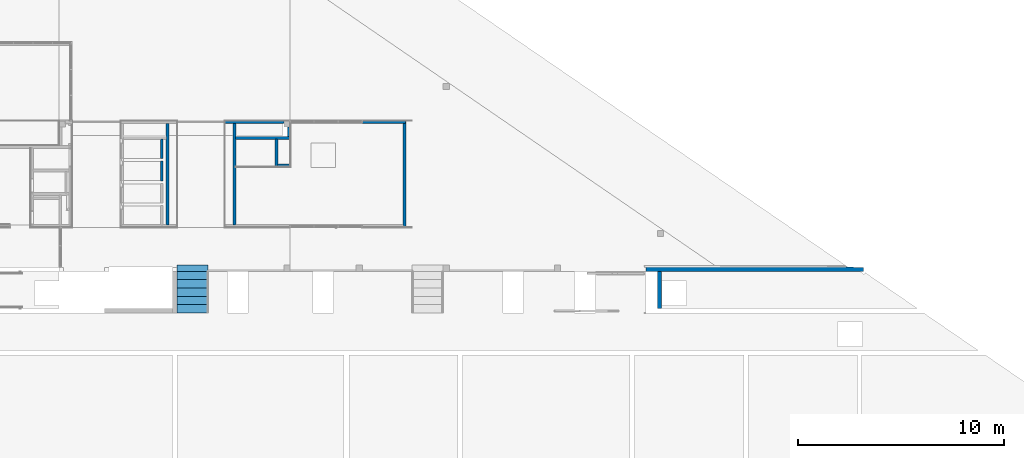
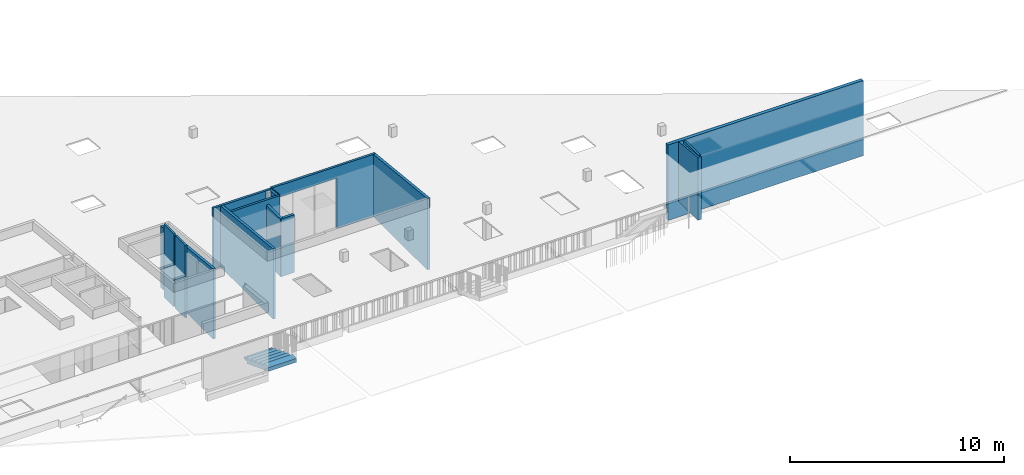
# One storey, part 28 of 43: 12 walls, 1 stair, 1 opening.
"""IFC2X3 building model written with IfcOpenShell, lengths in millimetres."""

from ifc_helpers import new_model, entity, si_unit, converted_unit, derived_unit, money_unit, direction, frame, origin_with_axes, place, context, subcontext, project, spatial, faceted_brep, material, material_list, type_object, element, save


model = new_model("IFC2X3")

# Units and contexts
model_context = context("Model", 3, precision=0.01, world=origin_with_axes(), true_north=direction((0.0, 1.0)))
body_context = subcontext(model_context, "Body", "Model", "MODEL_VIEW")
ifc_project = project(units=[si_unit("LENGTHUNIT", "METRE", prefix="MILLI"), si_unit("AREAUNIT", "SQUARE_METRE"), si_unit("VOLUMEUNIT", "CUBIC_METRE"), converted_unit("PLANEANGLEUNIT", "DEGREE", entity("IfcPlaneAngleMeasure", 0.0174532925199), si_unit("PLANEANGLEUNIT", "RADIAN"), dimensions=[0, 0, 0, 0, 0, 0, 0]), si_unit("SOLIDANGLEUNIT", "STERADIAN"), money_unit("EUR"), converted_unit("TIMEUNIT", "Year", entity("IfcTimeMeasure", 31556926.0), si_unit("TIMEUNIT", "SECOND"), dimensions=[0, 0, 1, 0, 0, 0, 0]), si_unit("MASSUNIT", "GRAM", prefix="KILO"), si_unit("THERMODYNAMICTEMPERATUREUNIT", "DEGREE_CELSIUS"), si_unit("LUMINOUSINTENSITYUNIT", "LUMEN"), si_unit("ENERGYUNIT", "JOULE", prefix="MEGA"), derived_unit("THERMALCONDUCTANCEUNIT", [(si_unit("POWERUNIT", "WATT"), 1), (si_unit("LENGTHUNIT", "METRE"), -1), (si_unit("THERMODYNAMICTEMPERATUREUNIT", "KELVIN"), -1)]), derived_unit("SPECIFICHEATCAPACITYUNIT", [(si_unit("ENERGYUNIT", "JOULE"), 1), (si_unit("MASSUNIT", "GRAM", prefix="KILO"), -1), (si_unit("THERMODYNAMICTEMPERATUREUNIT", "KELVIN"), -1)]), derived_unit("MASSDENSITYUNIT", [(si_unit("MASSUNIT", "GRAM", prefix="KILO"), 1), (si_unit("VOLUMEUNIT", "CUBIC_METRE"), -1)])], contexts=[model_context])

# Site, building, storey
site_placement = place(None, origin_with_axes())
site = spatial("IfcSite", under=ifc_project, at=site_placement, Name="L.Koidula tn 11b", CompositionType="ELEMENT")
building_placement = place(site_placement, origin_with_axes())
building = spatial("IfcBuilding", under=site, at=building_placement, Name="Rakvere Riigigümnaasium", CompositionType="ELEMENT")
storey_placement = place(building_placement, frame((0.0, 0.0, 6665.0), z_axis=(0.0, 0.0, 1.0), x_axis=(1.0, 0.0, 0.0)))
storey = spatial("IfcBuildingStorey", under=building, at=storey_placement, Name="3.korrus +6,66", CompositionType="ELEMENT", Elevation=6665.0)

# Walls
ifc_material_1 = material(Name="Betoon element / plaat")
wall_type_1 = type_object("IfcWallType", Name="SS-01 200", PredefinedType="NOTDEFINED")
wall_1_placement = place(storey_placement, frame((75989.9798877, 15100.4785302, 900.0), z_axis=(0.0, 0.0, 1.0), x_axis=(0.0, 1.0, 0.0)))
element("IfcWall", 1, at=wall_1_placement, inside=storey, type_object=wall_type_1, material=ifc_material_1, Name="Sisesein", context=body_context, shape_type="Brep", body=[
    faceted_brep([(2009.97698206, 0.0, 3400.82462893), (2009.97698206, -200.0, 3400.82159302), (2009.97698206, -200.0, 0.0), (2009.97698206, 0.0, 0.0), (1699.55610898, -200.0, 3433.44814115), (200.0, 0.0, 3591.06087349), (200.0, -200.0, 3591.05783758), (307.225440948, -200.0, 3579.78798973), (307.23988879, -99.9622062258, 3579.78798973), (1699.57052778, -100.16329195, 3433.44814115), (200.0, -200.0, 0.0), (1699.55610898, -200.0, 3612.09022017), (310.620542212, -200.0, 3612.09022017), (200.0, 0.0, 0.0), (310.634989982, -99.9626965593, 3612.09022017), (1699.57052778, -100.16329195, 3612.09022017)], [[[0, 1, 2, 3]], [[4, 1, 0, 5, 6, 7, 8, 9]], [[7, 6, 10, 2, 1, 4, 11, 12]], [[13, 3, 2, 10]], [[5, 0, 3, 13]], [[6, 5, 13, 10]], [[7, 12, 14, 8]], [[14, 15, 9, 8]], [[15, 11, 4, 9]], [[14, 12, 11, 15]]]),
])
ifc_material_2 = material(Name="siseviimistlus-seinad")
ifc_material_list_1 = material_list([ifc_material_2, ifc_material_1])
wall_type_2 = type_object("IfcWallType", Name="SS-01-1 210", PredefinedType="NOTDEFINED")
wall_2_placement = place(storey_placement, frame((75429.9821418, 17110.4555123, 0.0), z_axis=(0.0, 0.0, 1.0), x_axis=(1.0, 0.0, 0.0)))
element("IfcWall", 2, at=wall_2_placement, inside=storey, type_object=wall_type_2, material=ifc_material_list_1, Name="Sisesein", context=body_context, shape_type="Brep", body=[
    faceted_brep([(9.40698896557e-06, 210.0, 4278.76124027), (10537.1078258, 210.0, 4278.60129165), (10537.1078258, 210.0, 4274.21275802), (10054.1332579, 210.0, 4274.21275802), (10054.1332579, 210.0, 0.0), (0.0, 210.0, 0.0), (10537.1078258, 200.0, 4279.65233399), (9.40930533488e-06, 200.0, 4279.81228261), (10537.1078258, 200.0, 4274.21275802), (10068.7131302, 200.0, 4274.21275802), (10068.7131302, 200.0, 0.0), (0.0, 200.0, 0.0)], [[[0, 1, 2, 3, 4, 5]], [[6, 1, 0, 7]], [[1, 6, 8, 2]], [[9, 3, 2, 8]], [[3, 9, 10, 4]], [[5, 4, 10, 11]], [[7, 0, 5, 11]], [[6, 7, 11, 10, 9, 8]]]),
    faceted_brep([(9.40930533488e-06, 200.0, 4279.81228261), (10537.1078258, 200.0, 4279.65233399), (10537.1078258, 200.0, 0.0), (0.0, 200.0, 0.0), (10537.1078258, 0.0, 4300.67318083), (9.45551903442e-06, 0.0, 4300.83312945), (10537.1078258, 0.0, 0.0), (0.0, 0.0, 0.0)], [[[0, 1, 2, 3]], [[4, 1, 0, 5]], [[1, 4, 6, 2]], [[2, 6, 7, 3]], [[5, 0, 3, 7]], [[4, 5, 7, 6]]]),
])

# Wall, opening
ifc_material_3 = material(Name="Krohv")
ifc_material_4 = material(Name="Silikaat plokk")
ifc_material_list_2 = material_list([ifc_material_3, ifc_material_4, ifc_material_3])
wall_type_3 = type_object("IfcWallType", Name="SS-05 140", PredefinedType="NOTDEFINED")
wall_3_placement = place(storey_placement, frame((55029.9980025, 24400.4555472, 0.0), z_axis=(0.0, 0.0, 1.0), x_axis=(1.0, 0.0, 0.0)))
wall_3 = element("IfcWall", 3, at=wall_3_placement, inside=storey, type_object=wall_type_3, material=ifc_material_list_2, Name="Sisesein", context=body_context, shape_type="Brep", body=[
    faceted_brep([(3150.02548497, 10.0000000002, 3533.83406305), (8770.0, 10.0, 3533.74875433), (8770.0, 10.0, 0.0), (6660.02292846, 10.0, 0.0), (6660.02292846, 10.0, 2880.0), (3150.03673722, 10.0, 2880.0), (3150.03673722, 10.0, 0.0), (0.0, 10.0, 0.0), (0.0, 10.0, 3478.57892397), (3150.02948577, 10.0, 3478.53110792), (8770.0, 0.0, 3534.79979668), (3150.02548497, 1.84741111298e-10, 3534.8851054), (8770.0, 0.0, 0.0), (6660.02292846, 0.0, 0.0), (6660.02292846, 0.0, 2880.0), (3150.03673722, 0.0, 2880.0), (3150.03673722, 0.0, 0.0), (0.0, 0.0, 0.0), (0.0, 0.0, 3479.62996631), (3150.02948577, 0.0, 3479.58215026)], [[[0, 1, 2, 3, 4, 5, 6, 7, 8, 9]], [[10, 1, 0, 11]], [[1, 10, 12, 2]], [[2, 12, 13, 3]], [[13, 14, 4, 3]], [[14, 15, 5, 4]], [[15, 16, 6, 5]], [[17, 7, 6, 16]], [[17, 18, 8, 7]], [[19, 9, 8, 18]], [[11, 0, 9, 19]], [[10, 11, 19, 18, 17, 16, 15, 14, 13, 12]]]),
    faceted_brep([(4165.20411758, 5.92947912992e-09, 3534.86969543), (8760.0, 0.0, 3534.79994847), (8760.0, 0.0, 0.0), (6660.02292846, 0.0, 0.0), (6660.02292846, 0.0, 2880.0), (8760.0, -120.0, 3547.41245657), (3150.02548497, -0.0358767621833, 3534.88887619), (3150.02548497, -120.0, 3547.4976135), (8760.0, -120.0, 0.0), (6660.02292846, -120.0, 0.0), (6660.02292846, -120.0, 2880.0), (3150.02948577, -0.0433228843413, 3479.58670368), (3150.02948577, -120.0, 3492.19465836), (0.0, -120.0, 3492.24247441), (0.0, -120.0, 0.0), (2850.03680755, -120.0, 0.0), (2850.03680755, -120.0, 3479.58670368), (3150.03680755, -120.0, 3479.58670368), (3150.03673722, -120.0, 2880.0), (3150.03673722, 0.0, 2880.0), (0.0, 0.0, 3479.62996631), (2850.03680755, 3.50475204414e-08, 3479.58670401), (0.0, 0.0, 0.0), (2850.03680755, 0.0, 0.0)], [[[0, 1, 2, 3, 4]], [[5, 1, 0, 6, 7]], [[1, 5, 8, 2]], [[9, 3, 2, 8]], [[4, 3, 9, 10]], [[6, 0, 4, 11]], [[7, 6, 11, 12]], [[5, 7, 12, 13, 14, 15, 16, 17, 18, 10, 9, 8]], [[19, 4, 10, 18]], [[19, 11, 4]], [[20, 13, 12, 11, 21]], [[13, 20, 22, 14]], [[15, 14, 22, 23]], [[21, 16, 15, 23]], [[11, 17, 16, 21]], [[19, 18, 17, 11]], [[20, 21, 23, 22]]]),
    faceted_brep([(3150.02548497, -119.999999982, 3547.49761349), (8640.0, -120.0, 3547.41427812), (8640.0, -120.0, 0.0), (6660.02292846, -120.0, 0.0), (6660.02292846, -120.0, 2880.0), (3150.03673722, -120.0, 2880.0), (8640.0, -130.0, 3548.46532046), (3150.02548497, -130.000000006, 3548.54865584), (8640.0, -130.0, 0.0), (6660.02292846, -130.0, 0.0), (6660.02292846, -130.0, 2880.0), (3150.03673722, -130.0, 2880.0)], [[[0, 1, 2, 3, 4, 5]], [[6, 1, 0, 7]], [[1, 6, 8, 2]], [[8, 9, 3, 2]], [[10, 4, 3, 9]], [[11, 5, 4, 10]], [[7, 0, 5, 11]], [[6, 7, 11, 10, 9, 8]]]),
    faceted_brep([(2850.03680755, -120.0, 0.0), (520.046794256, -120.0, 0.0), (520.046794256, -120.0, 3492.23458033), (3030.03680755, -120.0, 3492.19647979), (3030.03680755, -120.0, 3479.58670368), (2850.03680755, -120.0, 3479.58670368), (2850.03680755, -130.0, 0.0), (520.046794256, -130.0, 0.0), (520.046794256, -130.0, 3493.28562267), (3030.03680755, -130.0, 3493.24752214), (3030.03680755, -130.0, 3479.58670368), (2850.03680755, -130.0, 3479.58670368)], [[[0, 1, 2, 3, 4, 5]], [[6, 7, 1, 0]], [[1, 7, 8, 2]], [[2, 8, 9, 3]], [[10, 4, 3, 9]], [[4, 10, 11, 5]], [[5, 11, 6, 0]], [[11, 10, 9, 8, 7, 6]]]),
    faceted_brep([(400.046794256, -120.0, 0.0), (106.5, -120.0, 0.0), (106.5, -120.0, 3492.24085779), (400.046794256, -120.0, 3492.23640188), (106.5, -130.0, 0.0), (400.046794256, -130.0, 0.0), (106.5, -130.0, 3493.29190013), (400.046794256, -130.0, 3493.28744422)], [[[0, 1, 2, 3]], [[4, 1, 0, 5]], [[1, 4, 6, 2]], [[2, 6, 7, 3]], [[5, 0, 3, 7]], [[4, 5, 7, 6]]]),
])
opening_placement = place(wall_3_placement, frame((4905.02983284, 0.0, 0.0), z_axis=(0.0, 0.0, 1.0), x_axis=(1.0, 0.0, 0.0)))
element("IfcOpeningElement", 4, at=opening_placement, cuts=wall_3, Name="ava", context=body_context, shape_type="Brep", body=[
    faceted_brep([(-1754.99309562, -140.0, 0.0), (-1754.99309562, -140.0, 2880.0), (-1754.99309562, 280.0, 2880.0), (-1754.99309562, 280.0, 0.0), (1754.99309562, -140.0, 0.0), (1754.99309562, -140.0, 2880.0), (1754.99309562, 280.0, 2880.0), (1754.99309562, 280.0, 0.0)], [[[0, 1, 2, 3]], [[0, 4, 5, 1]], [[1, 5, 6, 2]], [[3, 2, 6, 7]], [[4, 0, 3, 7]], [[5, 4, 7, 6]]]),
])

# Walls
wall_4_placement = place(storey_placement, frame((55550.0447968, 19240.4397072, 0.0), z_axis=(0.0, 0.0, 1.0), x_axis=(0.0, 1.0, 0.0)))
element("IfcWall", 5, at=wall_4_placement, inside=storey, type_object=wall_type_3, material=ifc_material_list_2, Name="Sisesein", context=body_context, shape_type="Brep", body=[
    faceted_brep([(5030.01583998, 130.0, 0.0), (5030.01583998, 130.0, 3493.28759601), (5030.01583998, 120.0, 3493.28744422), (5030.01583998, 120.0, 0.0), (130.0, 130.0, 0.0), (130.0, 130.0, 4008.30000829), (130.0, 120.0, 4008.2998565), (130.0, 120.0, 0.0)], [[[0, 1, 2, 3]], [[4, 5, 1, 0]], [[5, 6, 2, 1]], [[3, 2, 6, 7]], [[4, 0, 3, 7]], [[7, 6, 5, 4]]]),
    faceted_brep([(5040.01583998, 120.0, 0.0), (5040.01583998, 120.0, 3492.23640188), (5040.01583998, 0.0, 3492.23458033), (5040.01583998, 0.0, 0.0), (120.0, 120.0, 0.0), (120.0, 120.0, 4009.35089884), (120.0, 0.0, 4009.34907729), (120.0, 0.0, 0.0)], [[[0, 1, 2, 3]], [[4, 5, 1, 0]], [[5, 6, 2, 1]], [[3, 2, 6, 7]], [[4, 0, 3, 7]], [[7, 6, 5, 4]]]),
    faceted_brep([(4280.21298143, 0.0, 0.0), (4280.21298143, 0.0, 3572.0930779), (4280.21298143, -10.0, 3572.0929261), (4280.21298143, -10.0, 0.0), (130.0, 0.0, 0.0), (130.0, 0.0, 4008.29803495), (130.0, -10.0, 4008.29788315), (130.0, -10.0, 0.0)], [[[0, 1, 2, 3]], [[4, 5, 1, 0]], [[5, 6, 2, 1]], [[3, 2, 6, 7]], [[4, 0, 3, 7]], [[7, 6, 5, 4]]]),
    faceted_brep([(5030.01583998, 0.0, 0.0), (5030.01583998, 0.0, 3493.28562267), (5030.01583998, -10.0, 3493.28547087), (5030.01583998, -10.0, 0.0), (4400.21298143, 0.0, 0.0), (4400.21298143, 0.0, 3559.4805698), (4400.21298143, -10.0, 3559.480418), (4400.21298143, -10.0, 0.0)], [[[0, 1, 2, 3]], [[4, 5, 1, 0]], [[5, 6, 2, 1]], [[3, 2, 6, 7]], [[4, 0, 3, 7]], [[7, 6, 5, 4]]]),
])
wall_5_placement = place(storey_placement, frame((52309.9999937, 19360.4397072, 0.0), z_axis=(0.0, 0.0, 1.0), x_axis=(0.0, 1.0, 0.0)))
element("IfcWall", 6, at=wall_5_placement, inside=storey, type_object=wall_type_3, material=ifc_material_list_2, Name="Sisesein", context=body_context, shape_type="Brep", body=[
    faceted_brep([(4145.01298143, 130.0, 0.0), (4145.01298143, 130.0, 3573.74181804), (4145.01298143, 120.0, 3573.74166624), (4145.01298143, 120.0, 0.0), (15.0, 130.0, 0.0), (15.0, 130.0, 4007.82366956), (15.0, 120.0, 4007.82351777), (15.0, 120.0, 0.0)], [[[0, 1, 2, 3]], [[4, 5, 1, 0]], [[5, 6, 2, 1]], [[3, 2, 6, 7]], [[4, 0, 3, 7]], [[7, 6, 5, 4]]]),
    faceted_brep([(4910.01583998, 130.0, 0.0), (4910.01583998, 130.0, 3493.33677845), (4910.01583998, 120.0, 3493.33662666), (4910.01583998, 120.0, 0.0), (4280.01298143, 130.0, 0.0), (4280.01298143, 130.0, 3559.55274643), (4280.01298143, 120.0, 3559.55259463), (4280.01298143, 120.0, 0.0)], [[[0, 1, 2, 3]], [[4, 5, 1, 0]], [[5, 6, 2, 1]], [[3, 2, 6, 7]], [[4, 0, 3, 7]], [[7, 6, 5, 4]]]),
    faceted_brep([(4920.01583998, 120.0, 0.0), (4920.01583998, 120.0, 3492.28558432), (4920.01583998, 0.0, 3492.28376277), (4920.01583998, 0.0, 0.0), (0.0, 120.0, 0.0), (0.0, 120.0, 4009.40008128), (0.0, 0.0, 4009.39825973), (0.0, 0.0, 0.0)], [[[0, 1, 2, 3]], [[4, 5, 1, 0]], [[5, 6, 2, 1]], [[3, 2, 6, 7]], [[4, 0, 3, 7]], [[7, 6, 5, 4]]]),
    faceted_brep([(4910.01583998, 0.0, 0.0), (4910.01583998, 0.0, 3493.33480511), (4910.01583998, -10.0, 3493.33465332), (4910.01583998, -10.0, 0.0), (15.0, 0.0, 0.0), (15.0, 0.0, 4007.82169622), (15.0, -10.0, 4007.82154443), (15.0, -10.0, 0.0)], [[[0, 1, 2, 3]], [[4, 5, 1, 0]], [[5, 6, 2, 1]], [[3, 2, 6, 7]], [[4, 0, 3, 7]], [[7, 6, 5, 4]]]),
])
wall_6_placement = place(storey_placement, frame((58180.0348101, 23640.6526887, 0.0), z_axis=(0.0, 0.0, 1.0), x_axis=(-1.0, 0.0, 0.0)))
element("IfcWall", 7, at=wall_6_placement, inside=storey, type_object=wall_type_3, material=ifc_material_list_2, Name="Sisesein", context=body_context, shape_type="Brep", body=[
    faceted_brep([(0.0113225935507, 120.000004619, 3627.35611155), (-10.0, 120.000003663, 3627.35595948), (-10.0, 120.0, 0.0), (600.0, 120.0, 0.0), (600.0, 120.000004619, 3300.0), (720.0, 120.000004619, 3300.0), (720.0, 120.0, 0.0), (2619.99001329, 120.0, 0.0), (2619.99001329, 120.000003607, 3572.09292648), (0.0073217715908, 120.000004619, 3572.05315641), (-10.0, 130.000014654, 3628.40700298), (0.0113225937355, 130.000018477, 3628.40715535), (-10.0, 130.0, 0.0), (600.0, 130.0, 0.0), (600.0, 130.000018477, 3300.0), (720.0, 130.000018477, 3300.0), (720.0, 130.0, 0.0), (2619.99001329, 130.0, 0.0), (2619.99001329, 130.000014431, 3573.14396996), (0.00732177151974, 130.000018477, 3573.10420021)], [[[0, 1, 2, 3, 4, 5, 6, 7, 8, 9]], [[10, 1, 0, 11]], [[1, 10, 12, 2]], [[2, 12, 13, 3]], [[13, 14, 4, 3]], [[14, 15, 5, 4]], [[15, 16, 6, 5]], [[17, 7, 6, 16]], [[17, 18, 8, 7]], [[19, 9, 8, 18]], [[11, 0, 9, 19]], [[10, 11, 19, 18, 17, 16, 15, 14, 13, 12]]]),
    faceted_brep([(2629.99001329, 0.0, 0.0), (2629.99001329, 6.55952447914e-06, 3559.48057048), (0.00732177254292, 6.55979093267e-06, 3559.44064851), (0.0, 0.0, 0.0), (2629.99001329, 120.0, 0.0), (2629.99001329, 120.000002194, 3572.09307813), (0.0073217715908, 120.000002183, 3572.05315616), (0.0, 120.0, 0.0)], [[[0, 1, 2, 3]], [[4, 5, 1, 0]], [[5, 6, 2, 1]], [[3, 2, 6, 7]], [[4, 0, 3, 7]], [[7, 6, 5, 4]]]),
    faceted_brep([(2619.99001329, -10.0, 0.0), (2619.99001329, -10.0, 3558.42937566), (120.0, -10.0, 3558.39142692), (120.0, -10.0, 0.0), (2619.99001329, 0.0, 0.0), (2619.99001329, 1.07819886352e-05, 3559.48041913), (120.0, 1.07818749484e-05, 3559.44247039), (120.0, 0.0, 0.0)], [[[0, 1, 2, 3]], [[4, 5, 1, 0]], [[5, 6, 2, 1]], [[3, 2, 6, 7]], [[4, 0, 3, 7]], [[7, 6, 5, 4]]]),
])
wall_7_placement = place(storey_placement, frame((57580.0348101, 22180.6526887, 0.0), z_axis=(0.0, 0.0, 1.0), x_axis=(0.0, 1.0, 0.0)))
element("IfcWall", 8, at=wall_7_placement, inside=storey, type_object=wall_type_3, material=ifc_material_list_2, Name="Sisesein", context=body_context, shape_type="Brep", body=[
    faceted_brep([(-10.0, 120.0, 3300.0), (1330.0, 120.0, 3300.0), (1330.0, 130.0, 3300.0), (-10.0, 130.0, 3300.0), (-10.0, 120.0, 0.0), (1330.0, 120.0, 0.0), (1330.0, 130.0, 0.0), (-10.0, 130.0, 0.0)], [[[0, 1, 2, 3]], [[4, 5, 1, 0]], [[6, 2, 1, 5]], [[3, 2, 6, 7]], [[7, 4, 0, 3]], [[7, 6, 5, 4]]]),
    faceted_brep([(0.0, 0.0, 3300.0), (1340.0, 0.0, 3300.0), (1340.0, 120.0, 3300.0), (0.0, 120.0, 3300.0), (0.0, 0.0, 0.0), (1340.0, 0.0, 0.0), (1340.0, 120.0, 0.0), (0.0, 120.0, 0.0)], [[[0, 1, 2, 3]], [[4, 5, 1, 0]], [[6, 2, 1, 5]], [[3, 2, 6, 7]], [[7, 4, 0, 3]], [[7, 6, 5, 4]]]),
    faceted_brep([(120.0, -10.0, 3300.0), (1330.0, -10.0, 3300.0), (1330.0, 0.0, 3300.0), (120.0, 0.0, 3300.0), (120.0, -10.0, 0.0), (1330.0, -10.0, 0.0), (1330.0, 0.0, 0.0), (120.0, 0.0, 0.0)], [[[0, 1, 2, 3]], [[4, 5, 1, 0]], [[6, 2, 1, 5]], [[3, 2, 6, 7]], [[7, 4, 0, 3]], [[7, 6, 5, 4]]]),
])
wall_8_placement = place(storey_placement, frame((63789.9980025, 24400.4555472, 0.0), z_axis=(0.0, 0.0, 1.0), x_axis=(0.0, -1.0, 0.0)))
element("IfcWall", 9, at=wall_8_placement, inside=storey, type_object=wall_type_3, material=ifc_material_list_2, Name="Sisesein", context=body_context, shape_type="Brep", body=[
    faceted_brep([(0.0, 0.0, 3534.79994847), (0.0, 10.0, 3534.79979668), (0.0, 10.0, 0.0), (0.0, 0.0, 0.0), (5170.01583998, 10.0, 4078.19035218), (5170.01583998, 0.0, 4078.19050398), (5170.01583998, 10.0, 0.0), (5170.01583998, 0.0, 0.0)], [[[0, 1, 2, 3]], [[4, 1, 0, 5]], [[1, 4, 6, 2]], [[6, 7, 3, 2]], [[5, 0, 3, 7]], [[4, 5, 7, 6]]]),
    faceted_brep([(120.0, -120.0, 3547.41427812), (120.0, 0.0, 3547.41245657), (120.0, 0.0, 0.0), (120.0, -120.0, 0.0), (5160.01583998, 0.0, 4077.13946164), (5160.01583998, -120.0, 4077.14128318), (5160.01583998, 0.0, 0.0), (5160.01583998, -120.0, 0.0)], [[[0, 1, 2, 3]], [[4, 1, 0, 5]], [[1, 4, 6, 2]], [[6, 7, 3, 2]], [[5, 0, 3, 7]], [[4, 5, 7, 6]]]),
    faceted_brep([(130.0, -130.0, 3548.46547226), (130.0, -120.0, 3548.46532046), (130.0, -120.0, 0.0), (130.0, -130.0, 0.0), (5040.01583998, -120.0, 4064.52877508), (5040.01583998, -130.0, 4064.52892688), (5040.01583998, -120.0, 0.0), (5040.01583998, -130.0, 0.0)], [[[0, 1, 2, 3]], [[4, 1, 0, 5]], [[1, 4, 6, 2]], [[6, 7, 3, 2]], [[5, 0, 3, 7]], [[4, 5, 7, 6]]]),
])
wall_9_placement = place(storey_placement, frame((58180.0348101, 23640.6526887, 0.0), z_axis=(0.0, 0.0, 1.0), x_axis=(0.0, 1.0, 0.0)))
element("IfcWall", 10, at=wall_9_placement, inside=storey, type_object=wall_type_3, material=ifc_material_list_2, Name="Sisesein", context=body_context, shape_type="Brep", body=[
    faceted_brep([(629.802858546, 130.0, 3479.58670368), (629.802858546, 130.0, 3493.24767393), (629.802858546, 120.0, 3493.24752214), (629.802858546, 120.0, 3479.58670368), (10.0, 130.0, 0.0), (10.0, 130.0, 3558.39157871), (459.802858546, 130.0, 3479.58670368), (459.802858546, 130.0, 0.0), (10.0, 120.0, 3558.39142692), (10.0, 120.0, 0.0), (459.802858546, 120.0, 0.0), (459.802858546, 120.0, 3479.58670368)], [[[0, 1, 2, 3]], [[4, 5, 1, 0, 6, 7]], [[5, 8, 2, 1]], [[3, 2, 8, 9, 10, 11]], [[11, 6, 0, 3]], [[9, 8, 5, 4]], [[7, 6, 11, 10]], [[9, 4, 7, 10]]]),
    faceted_brep([(639.802858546, 120.0, 3479.58670368), (639.802858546, 120.0, 3492.19647979), (639.802858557, 0.0073217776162, 3492.19465836), (639.802858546, 0.0, 3479.58670368), (0.0, 120.0, 0.0), (0.0, 120.0, 3559.44246926), (459.802858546, 120.0, 3479.58670368), (459.802858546, 120.0, 0.0), (-3.37507799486e-10, 0.00732177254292, 3559.44064783), (0.0, 0.0, 0.0), (459.802858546, 0.0, 0.0), (459.802858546, 0.0, 3479.58670368)], [[[0, 1, 2, 3]], [[4, 5, 1, 0, 6, 7]], [[5, 8, 2, 1]], [[3, 2, 8, 9, 10, 11]], [[3, 11, 6, 0]], [[9, 8, 5, 4]], [[10, 7, 6, 11]], [[10, 9, 4, 7]]]),
    faceted_brep([(629.802858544, 0.0113225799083, 3548.54865584), (629.802858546, -10.0, 3548.54850387), (629.802858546, -10.0, 0.0), (629.802858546, 0.0, 0.0), (-120.0, -10.0, 3627.3559591), (-119.999999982, 0.0113225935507, 3627.35611106), (-120.0, -10.0, 0.0), (-120.0, 0.0, 0.0)], [[[0, 1, 2, 3]], [[4, 1, 0, 5]], [[1, 4, 6, 2]], [[6, 7, 3, 2]], [[5, 0, 3, 7]], [[4, 5, 7, 6]]]),
])
wall_10_placement = place(storey_placement, frame((58190.0348101, 22180.6526887, 0.0), z_axis=(0.0, 0.0, 1.0), x_axis=(-1.0, 0.0, 0.0)))
element("IfcWall", 11, at=wall_10_placement, inside=storey, type_object=wall_type_3, material=ifc_material_list_2, Name="Sisesein", context=body_context, shape_type="Brep", body=[
    faceted_brep([(0.0, 10.0, 0.0), (730.0, 10.0, 0.0), (730.0, 0.0, 0.0), (0.0, 0.0, 0.0), (0.0, 10.0, 3300.0), (730.0, 10.0, 3300.0), (730.0, 0.0, 3300.0), (0.0, 0.0, 3300.0)], [[[0, 1, 2, 3]], [[4, 5, 1, 0]], [[6, 2, 1, 5]], [[3, 2, 6, 7]], [[7, 4, 0, 3]], [[7, 6, 5, 4]]]),
    faceted_brep([(0.0, 0.0, 0.0), (610.0, 0.0, 0.0), (610.0, -120.0, 0.0), (0.0, -120.0, 0.0), (0.0, 0.0, 3300.0), (610.0, 0.0, 3300.0), (610.0, -120.0, 3300.0), (0.0, -120.0, 3300.0)], [[[0, 1, 2, 3]], [[4, 5, 1, 0]], [[6, 2, 1, 5]], [[3, 2, 6, 7]], [[7, 4, 0, 3]], [[7, 6, 5, 4]]]),
    faceted_brep([(0.0, -120.0, 0.0), (600.0, -120.0, 0.0), (600.0, -130.0, 0.0), (0.0, -130.0, 0.0), (0.0, -120.0, 3300.0), (600.0, -120.0, 3300.0), (600.0, -130.0, 3300.0), (0.0, -130.0, 3300.0)], [[[0, 1, 2, 3]], [[4, 5, 1, 0]], [[6, 2, 1, 5]], [[3, 2, 6, 7]], [[7, 4, 0, 3]], [[7, 6, 5, 4]]]),
])
ifc_material_5 = material(Name="Keraamiline plaat")
ifc_material_6 = material(Name="Kipsplaat")
ifc_material_7 = material(Name="mineraalvill+karkass")
ifc_material_list_3 = material_list([ifc_material_5, ifc_material_6, ifc_material_6, ifc_material_7])
wall_type_4 = type_object("IfcWallType", Name="SS-09 107", PredefinedType="NOTDEFINED")
wall_11_placement = place(storey_placement, frame((51909.9999937, 22570.4494433, 0.0), z_axis=(0.0, 0.0, 1.0), x_axis=(0.0, 1.0, 0.0)))
element("IfcWall", 12, at=wall_11_placement, inside=storey, type_object=wall_type_4, material=ifc_material_list_3, Name="Sisesein", context=body_context, shape_type="Brep", body=[
    faceted_brep([(935.003245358, 0.0, 4142.26557952), (0.0, 0.0, 4142.26557952), (0.0, -15.0, 4142.26557952), (935.003245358, -15.0, 4142.26557952), (935.003245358, 0.0, 0.0), (0.0, 0.0, 0.0), (0.0, -15.0, 0.0), (935.003245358, -15.0, 0.0)], [[[0, 1, 2, 3]], [[4, 5, 1, 0]], [[2, 1, 5, 6]], [[3, 2, 6, 7]], [[3, 7, 4, 0]], [[7, 6, 5, 4]]]),
    faceted_brep([(950.003245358, -15.0, 4142.26557952), (0.0, -15.0, 4142.26557952), (0.0, -28.0, 4142.26557952), (950.003245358, -28.0, 4142.26557952), (950.003245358, -15.0, 0.0), (0.0, -15.0, 0.0), (0.0, -28.0, 0.0), (950.003245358, -28.0, 0.0)], [[[0, 1, 2, 3]], [[4, 5, 1, 0]], [[2, 1, 5, 6]], [[3, 2, 6, 7]], [[3, 7, 4, 0]], [[7, 6, 5, 4]]]),
    faceted_brep([(950.003245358, -28.0, 4142.26557952), (0.0, -28.0, 4142.26557952), (0.0, -40.5, 4142.26557952), (950.003245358, -40.5, 4142.26557952), (950.003245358, -28.0, 0.0), (0.0, -28.0, 0.0), (0.0, -40.5, 0.0), (950.003245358, -40.5, 0.0)], [[[0, 1, 2, 3]], [[4, 5, 1, 0]], [[2, 1, 5, 6]], [[3, 2, 6, 7]], [[3, 7, 4, 0]], [[7, 6, 5, 4]]]),
    faceted_brep([(950.003245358, -40.5, 4142.26557952), (0.0, -40.5, 4142.26557952), (0.0, -106.5, 4142.26557952), (950.003245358, -106.5, 4142.26557952), (950.003245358, -40.5, 0.0), (0.0, -40.5, 0.0), (0.0, -106.5, 0.0), (950.003245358, -106.5, 0.0)], [[[0, 1, 2, 3]], [[4, 5, 1, 0]], [[2, 1, 5, 6]], [[3, 2, 6, 7]], [[3, 7, 4, 0]], [[7, 6, 5, 4]]]),
])
wall_12_placement = place(storey_placement, frame((51909.9999937, 21500.446198, 0.0), z_axis=(0.0, 0.0, 1.0), x_axis=(0.0, 1.0, 0.0)))
element("IfcWall", 13, at=wall_12_placement, inside=storey, type_object=wall_type_4, material=ifc_material_list_3, Name="Sisesein", context=body_context, shape_type="Brep", body=[
    faceted_brep([(950.003245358, -15.0, 4142.26557952), (950.003245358, 0.0, 4142.26557952), (0.0, 0.0, 4142.26557952), (0.0, -15.0, 4142.26557952), (950.003245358, -15.0, 0.0), (950.003245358, 0.0, 0.0), (0.0, 0.0, 0.0), (0.0, -15.0, 0.0)], [[[0, 1, 2, 3]], [[0, 4, 5, 1]], [[1, 5, 6, 2]], [[3, 2, 6, 7]], [[4, 0, 3, 7]], [[5, 4, 7, 6]]]),
    faceted_brep([(950.003245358, -28.0, 4142.26557952), (950.003245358, -15.0, 4142.26557952), (0.0, -15.0, 4142.26557952), (0.0, -28.0, 4142.26557952), (950.003245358, -28.0, 0.0), (950.003245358, -15.0, 0.0), (0.0, -15.0, 0.0), (0.0, -28.0, 0.0)], [[[0, 1, 2, 3]], [[0, 4, 5, 1]], [[1, 5, 6, 2]], [[3, 2, 6, 7]], [[4, 0, 3, 7]], [[5, 4, 7, 6]]]),
    faceted_brep([(950.003245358, -40.5, 4142.26557952), (950.003245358, -28.0, 4142.26557952), (0.0, -28.0, 4142.26557952), (0.0, -40.5, 4142.26557952), (950.003245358, -40.5, 0.0), (950.003245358, -28.0, 0.0), (0.0, -28.0, 0.0), (0.0, -40.5, 0.0)], [[[0, 1, 2, 3]], [[0, 4, 5, 1]], [[1, 5, 6, 2]], [[3, 2, 6, 7]], [[4, 0, 3, 7]], [[5, 4, 7, 6]]]),
    faceted_brep([(950.003245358, -106.5, 4142.26557952), (950.003245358, -40.5, 4142.26557952), (0.0, -40.5, 4142.26557952), (0.0, -106.5, 4142.26557952), (950.003245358, -106.5, 0.0), (950.003245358, -40.5, 0.0), (0.0, -40.5, 0.0), (0.0, -106.5, 0.0)], [[[0, 1, 2, 3]], [[0, 4, 5, 1]], [[1, 5, 6, 2]], [[3, 2, 6, 7]], [[4, 0, 3, 7]], [[5, 4, 7, 6]]]),
])

# Stair
ifc_material_8 = material(Name="Betoon")
stair_placement = place(storey_placement, frame((54220.0052222, 17317.9692069, 0.0), z_axis=(0.0, 0.0, 1.0), x_axis=(-0.999999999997, -2.37661281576e-06, 0.0)))
element("IfcStair", 14, at=stair_placement, inside=storey, material=ifc_material_8, Name="TR-06", ShapeType="NOTDEFINED", context=body_context, shape_type="Brep", body=[
    faceted_brep([(1510.00500393, -94.5129120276, -100.0), (1510.00571691, 205.487087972, -100.0), (1510.00571691, 205.487087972, -215.122806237), (1510.00572166, 207.487087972, -214.351661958), (1510.00591274, 287.887087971, -183.351661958), (1510.00610382, 368.287087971, -152.351661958), (1510.0062949, 448.687087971, -121.351661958), (1510.00648598, 529.087087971, -90.3516619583), (1510.00667706, 609.48708797, -59.3516619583), (1510.00686814, 689.88708797, -28.3516619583), (1510.00705922, 770.28708797, 2.64833804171), (1510.0072503, 850.68708797, 33.6483380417), (1510.00744138, 931.087087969, 64.6483380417), (1510.00763246, 1011.48708797, 95.6483380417), (1510.00782354, 1091.88708797, 126.648338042), (1510.00801462, 1172.28708797, 157.648338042), (1510.0082057, 1252.68708797, 188.648338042), (1510.00839678, 1333.08708797, 219.648338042), (1510.00858786, 1413.48708797, 250.648338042), (1510.00877894, 1493.88708797, 281.648338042), (1510.00897002, 1574.28708797, 312.648338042), (1510.0091611, 1654.68708797, 343.648338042), (1510.00935218, 1735.08708797, 374.648338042), (1510.00954326, 1815.48708797, 405.648338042), (1510.00973434, 1895.88708797, 436.648338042), (1510.00992542, 1976.28708797, 467.648338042), (1510.01011649, 2056.68708797, 498.648338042), (1510.01030757, 2137.08708797, 529.648338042), (1510.01049865, 2217.48708797, 560.648338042), (1510.01049865, 2217.48708797, 775.0), (1510.00954326, 1815.48708797, 775.0), (1510.00954326, 1815.48708797, 620.0), (1510.00858786, 1413.48708797, 620.0), (1510.00858786, 1413.48708797, 465.0), (1510.00763246, 1011.48708797, 465.0), (1510.00763246, 1011.48708797, 310.0), (1510.00667706, 609.48708797, 310.0), (1510.00667706, 609.48708797, 155.0), (1510.00572166, 207.487087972, 155.0), (1510.00572166, 207.487087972, 0.0), (1510.00500393, -94.5129120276, 0.0), (0.00571691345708, 205.490676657, -100.0), (0.00500392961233, -94.5093233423, -100.0), (0.00571691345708, 205.490676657, -215.122806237), (0.00572166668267, 207.490676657, -214.351661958), (0.00591274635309, 287.890676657, -183.351661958), (0.00610382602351, 368.290676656, -152.351661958), (0.00629490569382, 448.690676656, -121.351661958), (0.00648598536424, 529.090676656, -90.3516619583), (0.00667706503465, 609.490676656, -59.3516619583), (0.00686814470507, 689.890676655, -28.3516619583), (0.00705922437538, 770.290676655, 2.64833804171), (0.0072503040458, 850.690676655, 33.6483380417), (0.00744138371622, 931.090676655, 64.6483380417), (0.00763246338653, 1011.49067665, 95.6483380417), (0.00782354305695, 1091.89067665, 126.648338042), (0.00801462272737, 1172.29067665, 157.648338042), (0.00820570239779, 1252.69067665, 188.648338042), (0.0083967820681, 1333.09067665, 219.648338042), (0.00858786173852, 1413.49067665, 250.648338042), (0.00877894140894, 1493.89067665, 281.648338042), (0.00897002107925, 1574.29067665, 312.648338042), (0.00916110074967, 1654.69067665, 343.648338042), (0.00935218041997, 1735.09067665, 374.648338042), (0.00954326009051, 1815.49067665, 405.648338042), (0.00973433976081, 1895.89067665, 436.648338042), (0.00992541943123, 1976.29067665, 467.648338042), (0.0101164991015, 2056.69067665, 498.648338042), (0.010307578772, 2137.09067665, 529.648338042), (0.0104986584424, 2217.49067665, 560.648338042), (0.0104986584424, 2217.49067665, 775.0), (0.00954326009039, 1815.49067665, 775.0), (0.00954326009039, 1815.49067665, 620.0), (0.00858786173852, 1413.49067665, 620.0), (0.00858786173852, 1413.49067665, 465.0), (0.00763246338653, 1011.49067665, 465.0), (0.00763246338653, 1011.49067665, 310.0), (0.00667706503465, 609.490676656, 310.0), (0.00667706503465, 609.490676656, 155.0), (0.00572166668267, 207.490676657, 155.0), (0.00572166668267, 207.490676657, 0.0), (0.00500392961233, -94.5093233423, 0.0)], [[[0, 1, 2, 3, 4, 5, 6, 7, 8, 9, 10, 11, 12, 13, 14, 15, 16, 17, 18, 19, 20, 21, 22, 23, 24, 25, 26, 27, 28, 29, 30, 31, 32, 33, 34, 35, 36, 37, 38, 39, 40]], [[41, 1, 0, 42]], [[43, 2, 1, 41]], [[3, 2, 43, 44]], [[3, 44, 45, 4]], [[4, 45, 46, 5]], [[5, 46, 47, 6]], [[6, 47, 48, 7]], [[7, 48, 49, 8]], [[8, 49, 50, 9]], [[9, 50, 51, 10]], [[10, 51, 52, 11]], [[11, 52, 53, 12]], [[12, 53, 54, 13]], [[13, 54, 55, 14]], [[14, 55, 56, 15]], [[15, 56, 57, 16]], [[16, 57, 58, 17]], [[17, 58, 59, 18]], [[18, 59, 60, 19]], [[19, 60, 61, 20]], [[20, 61, 62, 21]], [[21, 62, 63, 22]], [[22, 63, 64, 23]], [[23, 64, 65, 24]], [[24, 65, 66, 25]], [[25, 66, 67, 26]], [[26, 67, 68, 27]], [[27, 68, 69, 28]], [[69, 70, 29, 28]], [[30, 29, 70, 71]], [[30, 71, 72, 31]], [[73, 32, 31, 72]], [[32, 73, 74, 33]], [[75, 34, 33, 74]], [[34, 75, 76, 35]], [[77, 36, 35, 76]], [[36, 77, 78, 37]], [[79, 38, 37, 78]], [[38, 79, 80, 39]], [[39, 80, 81, 40]], [[81, 42, 0, 40]], [[43, 41, 42, 81, 80, 79, 78, 77, 76, 75, 74, 73, 72, 71, 70, 69, 68, 67, 66, 65, 64, 63, 62, 61, 60, 59, 58, 57, 56, 55, 54, 53, 52, 51, 50, 49, 48, 47, 46, 45, 44]]]),
])

save(model, "model.ifc")
